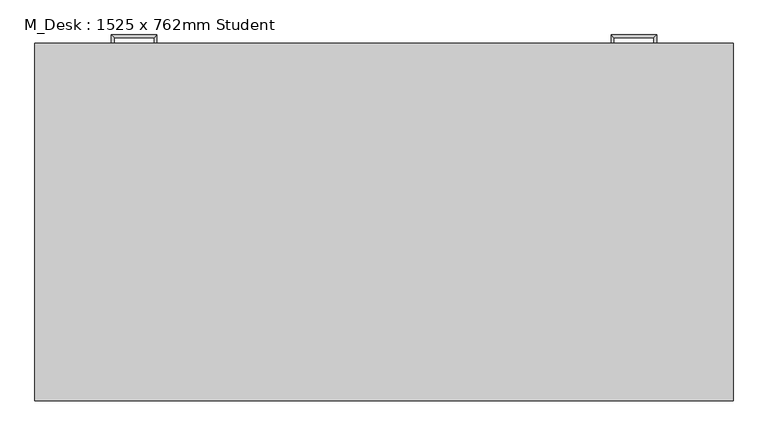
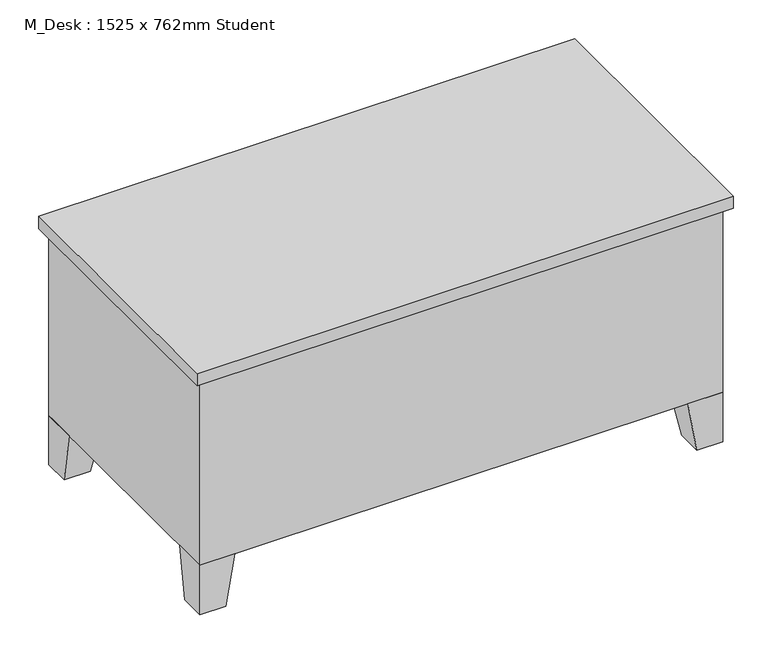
"""IFC4 building model written with IfcOpenShell, lengths in millimetres: furniture geometry, M_Desk : 1525 x 762mm Student."""

from ifc_helpers import new_model, si_unit, frame, origin, place, context, project, spatial, polyline, outline, extrude, faceted_brep, source, transform, mapped, element, save


def m_desk_1525_x_762mm_student_aed207d5(model_context):
    return source(origin(), model_context, "Body", "SolidModel", [
        extrude(outline(polyline([(1505.95, 762.0), (1137.65, 762.0), (1137.65, 774.7), (1505.95, 774.7), (1505.95, 762.0)])), frame((0.0, 0.0, 603.25), z_axis=(0.0, 0.0, 1.0), x_axis=(1.0, 0.0, 0.0)), (0.0, 0.0, 1.0), 101.6),
        extrude(outline(polyline([(1505.95, 762.0), (1137.65, 762.0), (1137.65, 774.7), (1505.95, 774.7), (1505.95, 762.0)])), frame((0.0, 0.0, 171.05), z_axis=(0.0, 0.0, 1.0), x_axis=(1.0, 0.0, 0.0)), (0.0, 0.0, 1.0), 413.15),
        extrude(outline(polyline([(387.35, 762.0), (19.05, 762.0), (19.05, 774.7), (387.35, 774.7), (387.35, 762.0)])), frame((0.0, 0.0, 602.85), z_axis=(0.0, 0.0, 1.0), x_axis=(1.0, 0.0, 0.0)), (0.0, 0.0, 1.0), 102.0),
        extrude(outline(polyline([(387.35, 762.0), (19.05, 762.0), (19.05, 774.7), (387.35, 774.7), (387.35, 762.0)])), frame((0.0, 0.0, 171.05), z_axis=(0.0, 0.0, 1.0), x_axis=(1.0, 0.0, 0.0)), (0.0, 0.0, 1.0), 171.45),
        extrude(outline(polyline([(387.35, 762.0), (19.05, 762.0), (19.05, 774.7), (387.35, 774.7), (387.35, 762.0)])), frame((0.0, 0.0, 482.2), z_axis=(0.0, 0.0, 1.0), x_axis=(1.0, 0.0, 0.0)), (0.0, 0.0, 1.0), 101.6),
        extrude(outline(polyline([(387.35, 762.0), (19.05, 762.0), (19.05, 774.7), (387.35, 774.7), (387.35, 762.0)])), frame((0.0, 0.0, 361.55), z_axis=(0.0, 0.0, 1.0), x_axis=(1.0, 0.0, 0.0)), (0.0, 0.0, 1.0), 101.6),
        faceted_brep([(1423.4, 762.0, 152.0), (1423.4, 660.4, 152.0), (1525.0, 660.4, 152.0), (1525.0, 762.0, 152.0), (1448.8, 762.0, 0.0), (1525.0, 762.0, 0.0), (1525.0, 685.8, 0.0), (1448.8, 685.8, 0.0)], [[[0, 1, 2, 3]], [[4, 5, 6, 7]], [[4, 7, 1, 0]], [[7, 6, 2, 1]], [[6, 5, 3, 2]], [[5, 4, 0, 3]]]),
        faceted_brep([(1423.4, 0.0, 152.0), (1525.0, 0.0, 152.0), (1525.0, 101.6, 152.0), (1423.4, 101.6, 152.0), (1448.8, 0.0, 0.0), (1448.8, 76.2, 0.0), (1525.0, 76.2, 0.0), (1525.0, 0.0, 0.0)], [[[0, 1, 2, 3]], [[4, 5, 6, 7]], [[4, 7, 1, 0]], [[7, 6, 2, 1]], [[6, 5, 3, 2]], [[5, 4, 0, 3]]]),
        faceted_brep([(101.6, 0.0, 152.0), (101.6, 101.6, 152.0), (0.0, 101.6, 152.0), (0.0, 0.0, 152.0), (76.2, 0.0, 0.0), (0.0, 0.0, 0.0), (0.0, 76.2, 0.0), (76.2, 76.2, 0.0)], [[[0, 1, 2, 3]], [[4, 5, 6, 7]], [[4, 7, 1, 0]], [[7, 6, 2, 1]], [[6, 5, 3, 2]], [[5, 4, 0, 3]]]),
        faceted_brep([(101.6, 762.0, 152.0), (0.0, 762.0, 152.0), (0.0, 660.4, 152.0), (101.6, 660.4, 152.0), (76.2, 762.0, 0.0), (76.2, 685.8, 0.0), (0.0, 685.8, 0.0), (0.0, 762.0, 0.0)], [[[0, 1, 2, 3]], [[4, 5, 6, 7]], [[4, 7, 1, 0]], [[7, 6, 2, 1]], [[6, 5, 3, 2]], [[5, 4, 0, 3]]]),
        extrude(outline(polyline([(1544.05, 781.05), (1544.05, -19.05), (-19.05, -19.05), (-19.05, 781.05), (1544.05, 781.05)])), frame((0.0, 0.0, 723.9), z_axis=(0.0, 0.0, 1.0), x_axis=(1.0, 0.0, 0.0)), (0.0, 0.0, 1.0), 38.1),
        extrude(outline(polyline([(406.4, 762.0), (406.4, 50.8), (1118.6, 50.8), (1118.6, 762.0), (1525.0, 762.0), (1525.0, 0.0), (0.0, 0.0), (0.0, 762.0), (406.4, 762.0)])), frame((0.0, 0.0, 152.0), z_axis=(0.0, 0.0, 1.0), x_axis=(1.0, 0.0, 0.0)), (0.0, 0.0, 1.0), 571.9),
        faceted_brep([(1366.25, 774.7, 546.1), (1366.25, 774.7, 533.4), (1372.6, 774.7, 533.4), (1372.6, 774.7, 546.1), (1366.25, 793.75, 546.1), (1366.25, 793.75, 533.4), (1372.6, 800.1, 533.4), (1372.6, 800.1, 546.1), (1277.35, 793.75, 546.1), (1277.35, 793.75, 533.4), (1271.0, 800.1, 533.4), (1271.0, 800.1, 546.1), (1277.35, 774.7, 546.1), (1271.0, 774.7, 546.1), (1271.0, 774.7, 533.4), (1277.35, 774.7, 533.4)], [[[0, 1, 2, 3]], [[1, 0, 4, 5]], [[2, 1, 5, 6]], [[3, 2, 6, 7]], [[0, 3, 7, 4]], [[5, 4, 8, 9]], [[6, 5, 9, 10]], [[7, 6, 10, 11]], [[4, 7, 11, 8]], [[12, 13, 14, 15]], [[9, 8, 12, 15]], [[10, 9, 15, 14]], [[11, 10, 14, 13]], [[8, 11, 13, 12]]]),
        faceted_brep([(1366.25, 774.7, 666.75), (1366.25, 774.7, 654.05), (1372.6, 774.7, 654.05), (1372.6, 774.7, 666.75), (1366.25, 793.75, 666.75), (1366.25, 793.75, 654.05), (1372.6, 800.1, 654.05), (1372.6, 800.1, 666.75), (1277.35, 793.75, 666.75), (1277.35, 793.75, 654.05), (1271.0, 800.1, 654.05), (1271.0, 800.1, 666.75), (1277.35, 774.7, 666.75), (1271.0, 774.7, 666.75), (1271.0, 774.7, 654.05), (1277.35, 774.7, 654.05)], [[[0, 1, 2, 3]], [[1, 0, 4, 5]], [[2, 1, 5, 6]], [[3, 2, 6, 7]], [[0, 3, 7, 4]], [[5, 4, 8, 9]], [[6, 5, 9, 10]], [[7, 6, 10, 11]], [[4, 7, 11, 8]], [[12, 13, 14, 15]], [[9, 8, 12, 15]], [[10, 9, 15, 14]], [[11, 10, 14, 13]], [[8, 11, 13, 12]]]),
        faceted_brep([(158.75, 774.7, 304.8), (152.4, 774.7, 304.8), (152.4, 774.7, 292.1), (158.75, 774.7, 292.1), (158.75, 793.75, 304.8), (152.4, 800.1, 304.8), (152.4, 800.1, 292.1), (158.75, 793.75, 292.1), (247.65, 793.75, 304.8), (254.0, 800.1, 304.8), (254.0, 800.1, 292.1), (247.65, 793.75, 292.1), (247.65, 774.7, 304.8), (247.65, 774.7, 292.1), (254.0, 774.7, 292.1), (254.0, 774.7, 304.8)], [[[0, 1, 2, 3]], [[1, 0, 4, 5]], [[2, 1, 5, 6]], [[3, 2, 6, 7]], [[0, 3, 7, 4]], [[5, 4, 8, 9]], [[6, 5, 9, 10]], [[7, 6, 10, 11]], [[4, 7, 11, 8]], [[12, 13, 14, 15]], [[9, 8, 12, 15]], [[10, 9, 15, 14]], [[11, 10, 14, 13]], [[8, 11, 13, 12]]]),
        faceted_brep([(158.75, 774.7, 425.45), (152.4, 774.7, 425.45), (152.4, 774.7, 412.75), (158.75, 774.7, 412.75), (158.75, 793.75, 425.45), (152.4, 800.1, 425.45), (152.4, 800.1, 412.75), (158.75, 793.75, 412.75), (247.65, 793.75, 425.45), (254.0, 800.1, 425.45), (254.0, 800.1, 412.75), (247.65, 793.75, 412.75), (247.65, 774.7, 425.45), (247.65, 774.7, 412.75), (254.0, 774.7, 412.75), (254.0, 774.7, 425.45)], [[[0, 1, 2, 3]], [[1, 0, 4, 5]], [[2, 1, 5, 6]], [[3, 2, 6, 7]], [[0, 3, 7, 4]], [[5, 4, 8, 9]], [[6, 5, 9, 10]], [[7, 6, 10, 11]], [[4, 7, 11, 8]], [[12, 13, 14, 15]], [[9, 8, 12, 15]], [[10, 9, 15, 14]], [[11, 10, 14, 13]], [[8, 11, 13, 12]]]),
        faceted_brep([(158.75, 774.7, 546.1), (152.4, 774.7, 546.1), (152.4, 774.7, 533.4), (158.75, 774.7, 533.4), (158.75, 793.75, 546.1), (152.4, 800.1, 546.1), (152.4, 800.1, 533.4), (158.75, 793.75, 533.4), (247.65, 793.75, 546.1), (254.0, 800.1, 546.1), (254.0, 800.1, 533.4), (247.65, 793.75, 533.4), (247.65, 774.7, 546.1), (247.65, 774.7, 533.4), (254.0, 774.7, 533.4), (254.0, 774.7, 546.1)], [[[0, 1, 2, 3]], [[1, 0, 4, 5]], [[2, 1, 5, 6]], [[3, 2, 6, 7]], [[0, 3, 7, 4]], [[5, 4, 8, 9]], [[6, 5, 9, 10]], [[7, 6, 10, 11]], [[4, 7, 11, 8]], [[12, 13, 14, 15]], [[9, 8, 12, 15]], [[10, 9, 15, 14]], [[11, 10, 14, 13]], [[8, 11, 13, 12]]]),
        faceted_brep([(158.75, 774.7, 666.75), (152.4, 774.7, 666.75), (152.4, 774.7, 654.05), (158.75, 774.7, 654.05), (158.75, 793.75, 666.75), (152.4, 800.1, 666.75), (152.4, 800.1, 654.05), (158.75, 793.75, 654.05), (247.65, 793.75, 666.75), (254.0, 800.1, 666.75), (254.0, 800.1, 654.05), (247.65, 793.75, 654.05), (247.65, 774.7, 666.75), (247.65, 774.7, 654.05), (254.0, 774.7, 654.05), (254.0, 774.7, 666.75)], [[[0, 1, 2, 3]], [[1, 0, 4, 5]], [[2, 1, 5, 6]], [[3, 2, 6, 7]], [[0, 3, 7, 4]], [[5, 4, 8, 9]], [[6, 5, 9, 10]], [[7, 6, 10, 11]], [[4, 7, 11, 8]], [[12, 13, 14, 15]], [[9, 8, 12, 15]], [[10, 9, 15, 14]], [[11, 10, 14, 13]], [[8, 11, 13, 12]]]),
    ])


if __name__ == "__main__":
    model = new_model("IFC4")
    model_context = context("Model", 3, world=origin())
    ifc_project = project(units=[si_unit("LENGTHUNIT", "METRE", prefix="MILLI")], contexts=[model_context])
    site = spatial("IfcSite", under=ifc_project)
    building = spatial("IfcBuilding", under=site)
    placement = place(None, origin())
    m_desk_1525_x_762mm_student_shape = m_desk_1525_x_762mm_student_aed207d5(model_context)
    element("IfcFurniture", 1, ObjectType="M_Desk : 1525 x 762mm Student", at=placement, inside=building, context=model_context, shape_type="MappedRepresentation", body=[
        mapped(m_desk_1525_x_762mm_student_shape, transform((0.0, 0.0, 0.0), x_axis=(1.0, 0.0, 0.0), y_axis=(0.0, 1.0, 0.0), z_axis=(0.0, 0.0, 1.0))),
    ])
    save(model, "model.ifc")
